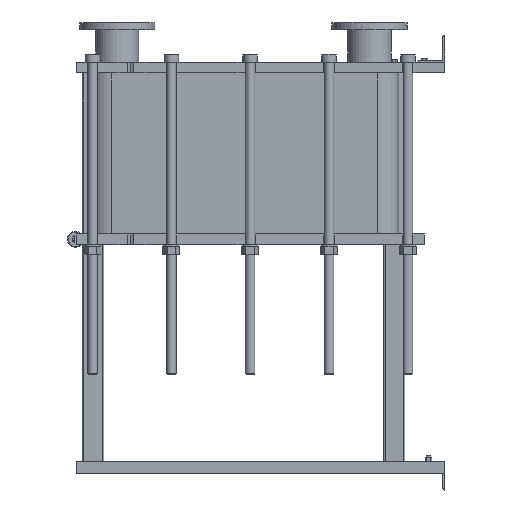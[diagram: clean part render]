
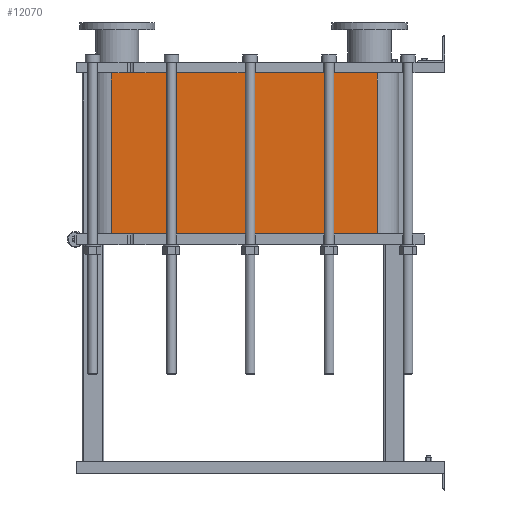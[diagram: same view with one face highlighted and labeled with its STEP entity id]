
A CAD part, left-side view. The second image highlights one B-rep face of the part: STEP entity #12070.
In plain terms, the highlighted planar face has unit normal (-1, 0, 0).
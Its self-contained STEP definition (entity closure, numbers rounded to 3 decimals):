
#1064=LINE('',#21140,#2164);
#1065=LINE('',#21144,#2165);
#1066=LINE('',#21146,#2166);
#1067=LINE('',#21147,#2167);
#2164=VECTOR('',#15790,10.);
#2165=VECTOR('',#15795,10.);
#2166=VECTOR('',#15796,10.);
#2167=VECTOR('',#15797,10.);
#3304=FACE_OUTER_BOUND('',#4091,.T.);
#4091=EDGE_LOOP('',(#9793,#9794,#9795,#9796));
#5677=VERTEX_POINT('',#21137);
#5678=VERTEX_POINT('',#21139);
#5679=VERTEX_POINT('',#21143);
#5680=VERTEX_POINT('',#21145);
#7118=EDGE_CURVE('',#5678,#5677,#1064,.T.);
#7120=EDGE_CURVE('',#5677,#5679,#1065,.T.);
#7121=EDGE_CURVE('',#5680,#5679,#1066,.T.);
#7122=EDGE_CURVE('',#5680,#5678,#1067,.T.);
#9793=ORIENTED_EDGE('',*,*,#7120,.T.);
#9794=ORIENTED_EDGE('',*,*,#7121,.F.);
#9795=ORIENTED_EDGE('',*,*,#7122,.T.);
#9796=ORIENTED_EDGE('',*,*,#7118,.T.);
#11441=PLANE('',#13191);
#12070=ADVANCED_FACE('',(#3304),#11441,.T.);
#13191=AXIS2_PLACEMENT_3D('',#21142,#15793,#15794);
#15790=DIRECTION('',(0.,0.,-1.));
#15793=DIRECTION('center_axis',(-1.,0.,0.));
#15794=DIRECTION('ref_axis',(0.,1.,0.));
#15795=DIRECTION('',(0.,-1.,0.));
#15796=DIRECTION('',(0.,0.,-1.));
#15797=DIRECTION('',(0.,1.,0.));
#21137=CARTESIAN_POINT('',(-248.152,1243.818,-600.3));
#21139=CARTESIAN_POINT('',(-248.152,1243.818,0.));
#21140=CARTESIAN_POINT('',(-248.152,1243.818,0.));
#21142=CARTESIAN_POINT('Origin',(-248.152,251.818,0.));
#21143=CARTESIAN_POINT('',(-248.152,251.818,-600.3));
#21144=CARTESIAN_POINT('',(-248.152,499.818,-600.3));
#21145=CARTESIAN_POINT('',(-248.152,251.818,0.));
#21146=CARTESIAN_POINT('',(-248.152,251.818,0.));
#21147=CARTESIAN_POINT('',(-248.152,251.818,0.));
